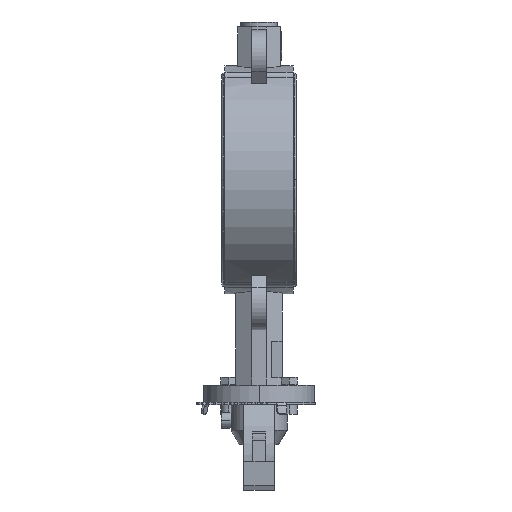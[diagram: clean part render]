
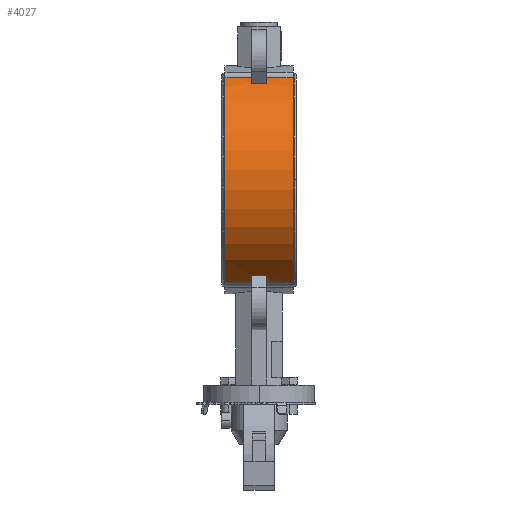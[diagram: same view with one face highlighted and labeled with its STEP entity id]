
A CAD part, left-side view. The second image highlights one B-rep face of the part: STEP entity #4027.
In plain terms, the highlighted cylindrical face has radius 93.5 mm (diameter 187 mm), a partial arc.
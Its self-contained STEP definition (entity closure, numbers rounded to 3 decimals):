
#94=CARTESIAN_POINT('',(0.,28.,0.));
#95=DIRECTION('',(0.,1.,0.));
#96=DIRECTION('',(-0.436,0.,-0.9));
#97=AXIS2_PLACEMENT_3D('',#94,#95,#96);
#99=DIRECTION('',(0.,1.,0.));
#100=VECTOR('',#99,22.);
#101=CARTESIAN_POINT('',(-40.786,6.,84.135));
#102=LINE('',#101,#100);
#103=CARTESIAN_POINT('',(0.,6.,0.));
#104=DIRECTION('',(0.,1.,0.));
#105=DIRECTION('',(-0.536,0.,0.844));
#106=AXIS2_PLACEMENT_3D('',#103,#104,#105);
#108=DIRECTION('',(0.,1.,0.));
#109=VECTOR('',#108,12.);
#110=CARTESIAN_POINT('',(-50.079,-6.,78.958));
#111=LINE('',#110,#109);
#112=CARTESIAN_POINT('',(0.,-6.,0.));
#113=DIRECTION('',(0.,1.,0.));
#114=DIRECTION('',(-0.536,0.,0.844));
#115=AXIS2_PLACEMENT_3D('',#112,#113,#114);
#117=DIRECTION('',(0.,1.,0.));
#118=VECTOR('',#117,22.);
#119=CARTESIAN_POINT('',(-40.786,-28.,84.135));
#120=LINE('',#119,#118);
#121=CARTESIAN_POINT('',(0.,-28.,0.));
#122=DIRECTION('',(0.,-1.,0.));
#123=DIRECTION('',(-0.436,0.,0.9));
#124=AXIS2_PLACEMENT_3D('',#121,#122,#123);
#126=DIRECTION('',(0.,1.,0.));
#127=VECTOR('',#126,22.);
#128=CARTESIAN_POINT('',(-40.786,-28.,-84.135));
#129=LINE('',#128,#127);
#130=CARTESIAN_POINT('',(0.,-6.,0.));
#131=DIRECTION('',(0.,1.,0.));
#132=DIRECTION('',(-0.436,0.,-0.9));
#133=AXIS2_PLACEMENT_3D('',#130,#131,#132);
#135=DIRECTION('',(0.,1.,0.));
#136=VECTOR('',#135,12.);
#137=CARTESIAN_POINT('',(-50.079,-6.,-78.958));
#138=LINE('',#137,#136);
#139=CARTESIAN_POINT('',(0.,6.,0.));
#140=DIRECTION('',(0.,1.,0.));
#141=DIRECTION('',(-0.436,0.,-0.9));
#142=AXIS2_PLACEMENT_3D('',#139,#140,#141);
#144=DIRECTION('',(0.,1.,0.));
#145=VECTOR('',#144,22.);
#146=CARTESIAN_POINT('',(-40.786,6.,-84.135));
#147=LINE('',#146,#145);
#3700=CARTESIAN_POINT('',(-50.079,-6.,78.958));
#3701=CARTESIAN_POINT('',(-50.079,6.,78.958));
#3702=VERTEX_POINT('',#3700);
#3703=VERTEX_POINT('',#3701);
#3736=CARTESIAN_POINT('',(-50.079,-6.,-78.958));
#3737=CARTESIAN_POINT('',(-50.079,6.,-78.958));
#3738=VERTEX_POINT('',#3736);
#3739=VERTEX_POINT('',#3737);
#3772=CARTESIAN_POINT('',(-40.786,-28.,84.135));
#3774=VERTEX_POINT('',#3772);
#3781=CARTESIAN_POINT('',(-40.786,-28.,-84.135));
#3783=VERTEX_POINT('',#3781);
#3788=CARTESIAN_POINT('',(-40.786,28.,84.135));
#3790=VERTEX_POINT('',#3788);
#3797=CARTESIAN_POINT('',(-40.786,28.,-84.135));
#3799=VERTEX_POINT('',#3797);
#3808=CARTESIAN_POINT('',(-40.786,-6.,-84.135));
#3809=VERTEX_POINT('',#3808);
#3810=CARTESIAN_POINT('',(-40.786,6.,-84.135));
#3811=VERTEX_POINT('',#3810);
#3820=CARTESIAN_POINT('',(-40.786,-6.,84.135));
#3821=VERTEX_POINT('',#3820);
#3822=CARTESIAN_POINT('',(-40.786,6.,84.135));
#3823=VERTEX_POINT('',#3822);
#3996=CARTESIAN_POINT('',(0.,-28.,0.));
#3997=DIRECTION('',(0.,1.,0.));
#3998=DIRECTION('',(1.,0.,0.));
#3999=AXIS2_PLACEMENT_3D('',#3996,#3997,#3998);
#4000=CYLINDRICAL_SURFACE('',#3999,93.5);
#4002=ORIENTED_EDGE('',*,*,#4001,.T.);
#4004=ORIENTED_EDGE('',*,*,#4003,.F.);
#4006=ORIENTED_EDGE('',*,*,#4005,.F.);
#4008=ORIENTED_EDGE('',*,*,#4007,.F.);
#4010=ORIENTED_EDGE('',*,*,#4009,.T.);
#4012=ORIENTED_EDGE('',*,*,#4011,.F.);
#4014=ORIENTED_EDGE('',*,*,#4013,.T.);
#4016=ORIENTED_EDGE('',*,*,#4015,.T.);
#4018=ORIENTED_EDGE('',*,*,#4017,.T.);
#4020=ORIENTED_EDGE('',*,*,#4019,.T.);
#4022=ORIENTED_EDGE('',*,*,#4021,.F.);
#4024=ORIENTED_EDGE('',*,*,#4023,.T.);
#4025=EDGE_LOOP('',(#4002,#4004,#4006,#4008,#4010,#4012,#4014,#4016,#4018,#4020,
#4022,#4024));
#4026=FACE_OUTER_BOUND('',#4025,.F.);
#4027=ADVANCED_FACE('',(#4026),#4000,.T.);
#98=CIRCLE('',#97,93.5);
#107=CIRCLE('',#106,93.5);
#116=CIRCLE('',#115,93.5);
#125=CIRCLE('',#124,93.5);
#134=CIRCLE('',#133,93.5);
#143=CIRCLE('',#142,93.5);
#4001=EDGE_CURVE('',#3799,#3790,#98,.T.);
#4003=EDGE_CURVE('',#3823,#3790,#102,.T.);
#4005=EDGE_CURVE('',#3703,#3823,#107,.T.);
#4007=EDGE_CURVE('',#3702,#3703,#111,.T.);
#4009=EDGE_CURVE('',#3702,#3821,#116,.T.);
#4011=EDGE_CURVE('',#3774,#3821,#120,.T.);
#4013=EDGE_CURVE('',#3774,#3783,#125,.T.);
#4015=EDGE_CURVE('',#3783,#3809,#129,.T.);
#4017=EDGE_CURVE('',#3809,#3738,#134,.T.);
#4019=EDGE_CURVE('',#3738,#3739,#138,.T.);
#4021=EDGE_CURVE('',#3811,#3739,#143,.T.);
#4023=EDGE_CURVE('',#3811,#3799,#147,.T.);
